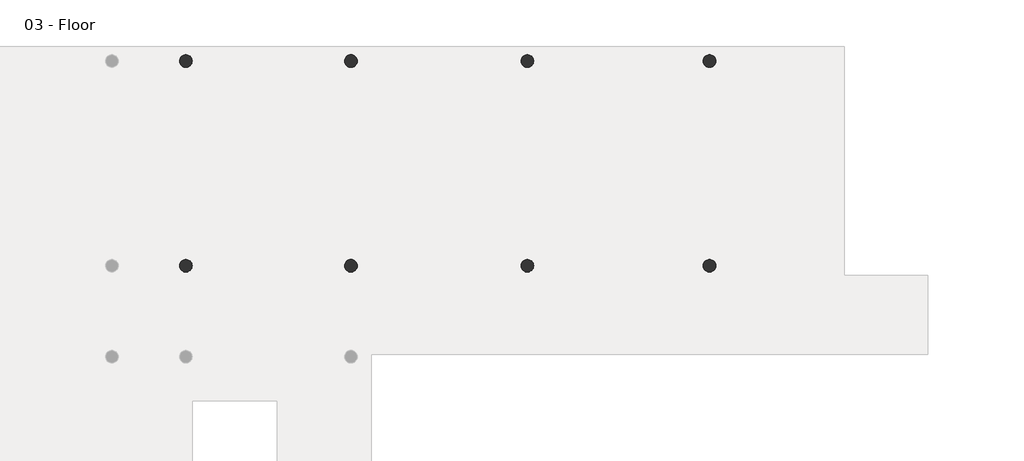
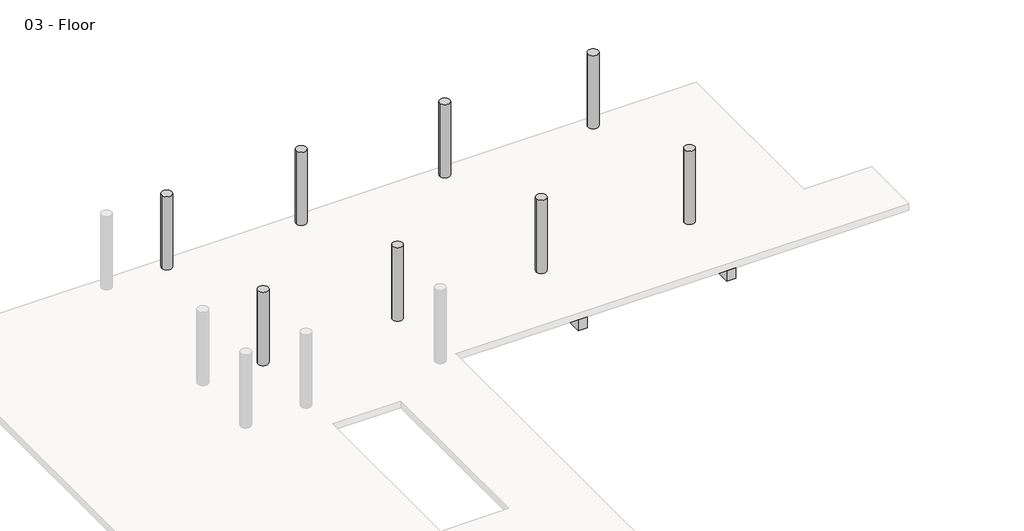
# One storey, part 8 of 8: 16 beams, 8 columns.
"""IFC4 building model written with IfcOpenShell, lengths in millimetres."""

from ifc_helpers import new_model, si_unit, point, frame, frame_2d, origin, place, context, project, spatial, polyline, circle_curve, trimmed, segment, composite_curve, outline, extrude, element, save
from ifc_brep_helpers import plane_surface, revolved_surface, advanced_brep

model = new_model("IFC4")

# Units and contexts
model_context = context("Model", 3, world=origin())
ifc_project = project(units=[si_unit("LENGTHUNIT", "METRE", prefix="MILLI")], contexts=[model_context])

# Site, building, storey
site = spatial("IfcSite", under=ifc_project)
building = spatial("IfcBuilding", under=site)
storey = spatial("IfcBuildingStorey", under=building, Name="03 - Floor", Elevation=7600.0)

# Beams
placement = place(None, origin())
element("IfcBeam", 1, ObjectType="M_Concrete-Rectangular Beam : 400 x 800mm", at=placement, inside=storey, context=model_context, shape_type="AdvancedBrep", body=[
    advanced_brep(
    [(554.8005584, 29890.6609793, 6800.0), (554.8005584, 29793.7386199, 6800.0), (554.8005584, 22878.5386199, 6800.0), (554.8005584, 22781.6162606, 6800.0), (554.8005584, 22781.6162606, 7300.0), (554.8005584, 22878.5386199, 7300.0), (554.8005584, 29793.7386199, 7300.0), (554.8005584, 29890.6609793, 7300.0), (954.8005584, 29890.6609793, 6800.0), (954.8005584, 29793.7386199, 6800.0), (954.8005584, 22878.5386199, 6800.0), (954.8005584, 22781.6162606, 6800.0), (954.8005584, 29890.6609793, 7300.0), (954.8005584, 29793.7386199, 7300.0), (954.8005584, 22878.5386199, 7300.0), (954.8005584, 22781.6162606, 7300.0)],
    [
        (0, 1),
        (1, 2),
        (2, 3),
        (3, 4),
        (4, 5),
        (5, 6),
        (6, 7),
        (7, 0),
        (0, 8, circle_curve(frame((754.8005584, 29993.7386199, 6800.0), z_axis=(0.0, 0.0, 1.0), x_axis=(-1.0, 0.0, 0.0)), 225.0)),
        (8, 9),
        (9, 10),
        (10, 11),
        (11, 3, circle_curve(frame((754.8005584, 22678.5386199, 6800.0), z_axis=(0.0, 0.0, 1.0), x_axis=(-1.0, 0.0, 0.0)), 225.0)),
        (8, 12),
        (12, 13),
        (13, 14),
        (14, 15),
        (15, 11),
        (7, 12, circle_curve(frame((754.8005584, 29993.7386199, 7300.0), z_axis=(0.0, 0.0, 1.0), x_axis=(-1.0, 0.0, 0.0)), 225.0)),
        (15, 4, circle_curve(frame((754.8005584, 22678.5386199, 7300.0), z_axis=(0.0, 0.0, 1.0), x_axis=(-1.0, 0.0, 0.0)), 225.0)),
    ],
    [
        plane_surface(frame((554.8005584, 22916.2386199, 7600.0), z_axis=(-1.0, 0.0, 0.0), x_axis=(0.0, 1.0, 0.0))),
        plane_surface(frame((554.8005584, 22916.2386199, 6800.0), z_axis=(0.0, 0.0, -1.0), x_axis=(0.0, 1.0, 0.0))),
        plane_surface(frame((954.8005584, 22916.2386199, 6800.0), z_axis=(1.0, 0.0, 0.0), x_axis=(0.0, 1.0, 0.0))),
        revolved_surface(polyline([(529.8005584, 29993.7386199, 7300.0), (529.8005584, 29993.7386199, 6800.0)]), (754.8005584, 29993.7386199, 3800.0), (0.0, 0.0, 1.0)),
        revolved_surface(polyline([(529.8005584, 22678.5386199, 7300.0), (529.8005584, 22678.5386199, 6800.0)]), (754.8005584, 22678.5386199, 3800.0), (0.0, 0.0, 1.0)),
        plane_surface(frame((24268.8999097, 30514.0407562, 7300.0), z_axis=(0.0, 0.0, 1.0), x_axis=(0.0, -1.0, 0.0))),
    ],
    [
        (0, [[1, 2, 3, 4, 5, 6, 7, 8]]),
        (1, [[9, 10, 11, 12, 13, -3, -2, -1]]),
        (2, [[-12, -11, -10, 14, 15, 16, 17, 18]]),
        (3, [[-9, -8, 19, -14]]),
        (4, [[-13, -18, 20, -4]]),
        (5, [[-7, -6, -5, -20, -17, -16, -15, -19]]),
    ],
),
])
element("IfcBeam", 2, ObjectType="M_Concrete-Rectangular Beam : 400 x 800mm", at=placement, inside=storey, context=model_context, shape_type="AdvancedBrep", body=[
    advanced_brep(
    [(554.8005584, 22575.4609793, 6800.0), (554.8005584, 22478.5386199, 6800.0), (554.8005584, 19627.3386199, 6800.0), (554.8005584, 19530.4162606, 6800.0), (554.8005584, 19530.4162606, 7300.0), (554.8005584, 19627.3386199, 7300.0), (554.8005584, 22478.5386199, 7300.0), (554.8005584, 22575.4609793, 7300.0), (857.878199, 22478.5386199, 6800.0), (954.8005584, 22478.5386199, 6800.0), (954.8005584, 19627.3386199, 6800.0), (954.8005584, 19530.4162606, 6800.0), (954.8005584, 22478.5386199, 7300.0), (954.8005584, 19627.3386199, 7300.0), (954.8005584, 19530.4162606, 7300.0), (857.878199, 22478.5386199, 7300.0)],
    [
        (0, 1),
        (1, 2),
        (2, 3),
        (3, 4),
        (4, 5),
        (5, 6),
        (6, 7),
        (7, 0),
        (0, 8, circle_curve(frame((754.8005584, 22678.5386199, 6800.0), z_axis=(0.0, 0.0, 1.0), x_axis=(-1.0, 0.0, 0.0)), 225.0)),
        (8, 9),
        (9, 10),
        (10, 11),
        (11, 3, circle_curve(frame((754.8005584, 19427.3386199, 6800.0), z_axis=(0.0, 0.0, 1.0), x_axis=(-1.0, 0.0, 0.0)), 225.0)),
        (9, 12),
        (12, 13),
        (13, 14),
        (14, 11),
        (7, 15, circle_curve(frame((754.8005584, 22678.5386199, 7300.0), z_axis=(0.0, 0.0, 1.0), x_axis=(-1.0, 0.0, 0.0)), 225.0)),
        (15, 8),
        (15, 12),
        (14, 4, circle_curve(frame((754.8005584, 19427.3386199, 7300.0), z_axis=(0.0, 0.0, 1.0), x_axis=(-1.0, 0.0, 0.0)), 225.0)),
    ],
    [
        plane_surface(frame((554.8005584, 19665.0386199, 7200.0), z_axis=(-1.0, 0.0, 0.0), x_axis=(0.0, 0.0, -1.0))),
        plane_surface(frame((754.8005584, 19665.0386199, 6800.0), z_axis=(0.0, 0.0, -1.0), x_axis=(1.0, 0.0, 0.0))),
        plane_surface(frame((954.8005584, 19665.0386199, 7200.0), z_axis=(1.0, 0.0, 0.0), x_axis=(0.0, 0.0, 1.0))),
        revolved_surface(polyline([(529.8005584, 22678.5386199, 7300.0), (529.8005584, 22678.5386199, 6800.0)]), (754.8005584, 22678.5386199, 3800.0), (0.0, 0.0, 1.0)),
        plane_surface(frame((992.5005584, 22478.5386199, 7200.0), z_axis=(0.0, 1.0, 0.0), x_axis=(0.0, 0.0, 1.0))),
        revolved_surface(polyline([(529.8005584, 19427.3386199, 7300.0), (529.8005584, 19427.3386199, 6800.0)]), (754.8005584, 19427.3386199, 3800.0), (0.0, 0.0, 1.0)),
        plane_surface(frame((24268.8999097, 30514.0407562, 7300.0), z_axis=(0.0, 0.0, 1.0), x_axis=(0.0, -1.0, 0.0))),
    ],
    [
        (0, [[1, 2, 3, 4, 5, 6, 7, 8]]),
        (1, [[9, 10, 11, 12, 13, -3, -2, -1]]),
        (2, [[-12, -11, 14, 15, 16, 17]]),
        (3, [[-9, -8, 18, 19]]),
        (4, [[-10, -19, 20, -14]]),
        (5, [[-13, -17, 21, -4]]),
        (6, [[-7, -6, -5, -21, -16, -15, -20, -18]]),
    ],
),
])
element("IfcBeam", 3, ObjectType="M_Concrete-Rectangular Beam : 400 x 800mm", at=placement, inside=storey, context=model_context, shape_type="AdvancedBrep", body=[
    advanced_brep(
    [(6447.6005584, 29890.6609793, 6800.0), (6447.6005584, 29793.7386199, 6800.0), (6447.6005584, 22878.5386199, 6800.0), (6447.6005584, 22781.6162606, 6800.0), (6447.6005584, 22781.6162606, 7300.0), (6447.6005584, 22878.5386199, 7300.0), (6447.6005584, 29793.7386199, 7300.0), (6447.6005584, 29890.6609793, 7300.0), (6847.6005584, 29890.6609793, 6800.0), (6847.6005584, 29793.7386199, 6800.0), (6847.6005584, 22878.5386199, 6800.0), (6847.6005584, 22781.6162606, 6800.0), (6847.6005584, 29890.6609793, 7300.0), (6847.6005584, 29793.7386199, 7300.0), (6847.6005584, 22878.5386199, 7300.0), (6847.6005584, 22781.6162606, 7300.0)],
    [
        (0, 1),
        (1, 2),
        (2, 3),
        (3, 4),
        (4, 5),
        (5, 6),
        (6, 7),
        (7, 0),
        (0, 8, circle_curve(frame((6647.6005584, 29993.7386199, 6800.0), z_axis=(0.0, 0.0, 1.0), x_axis=(-1.0, 0.0, 0.0)), 225.0)),
        (8, 9),
        (9, 10),
        (10, 11),
        (11, 3, circle_curve(frame((6647.6005584, 22678.5386199, 6800.0), z_axis=(0.0, 0.0, 1.0), x_axis=(-1.0, 0.0, 0.0)), 225.0)),
        (8, 12),
        (12, 13),
        (13, 14),
        (14, 15),
        (15, 11),
        (7, 12, circle_curve(frame((6647.6005584, 29993.7386199, 7300.0), z_axis=(0.0, 0.0, 1.0), x_axis=(-1.0, 0.0, 0.0)), 225.0)),
        (15, 4, circle_curve(frame((6647.6005584, 22678.5386199, 7300.0), z_axis=(0.0, 0.0, 1.0), x_axis=(-1.0, 0.0, 0.0)), 225.0)),
    ],
    [
        plane_surface(frame((6447.6005584, 22916.2386199, 7600.0), z_axis=(-1.0, 0.0, 0.0), x_axis=(0.0, 1.0, 0.0))),
        plane_surface(frame((6447.6005584, 22916.2386199, 6800.0), z_axis=(0.0, 0.0, -1.0), x_axis=(0.0, 1.0, 0.0))),
        plane_surface(frame((6847.6005584, 22916.2386199, 6800.0), z_axis=(1.0, 0.0, 0.0), x_axis=(0.0, 1.0, 0.0))),
        revolved_surface(polyline([(6422.6005584, 29993.7386199, 7300.0), (6422.6005584, 29993.7386199, 6800.0)]), (6647.6005584, 29993.7386199, 3800.0), (0.0, 0.0, 1.0)),
        revolved_surface(polyline([(6422.6005584, 22678.5386199, 7300.0), (6422.6005584, 22678.5386199, 6800.0)]), (6647.6005584, 22678.5386199, 3800.0), (0.0, 0.0, 1.0)),
        plane_surface(frame((24268.8999097, 30514.0407562, 7300.0), z_axis=(0.0, 0.0, 1.0), x_axis=(0.0, -1.0, 0.0))),
    ],
    [
        (0, [[1, 2, 3, 4, 5, 6, 7, 8]]),
        (1, [[9, 10, 11, 12, 13, -3, -2, -1]]),
        (2, [[-12, -11, -10, 14, 15, 16, 17, 18]]),
        (3, [[-9, -8, 19, -14]]),
        (4, [[-13, -18, 20, -4]]),
        (5, [[-7, -6, -5, -20, -17, -16, -15, -19]]),
    ],
),
])
element("IfcBeam", 4, ObjectType="M_Concrete-Rectangular Beam : 400 x 800mm", at=placement, inside=storey, context=model_context, shape_type="AdvancedBrep", body=[
    advanced_brep(
    [(6447.6005584, 22575.4609793, 6800.0), (6447.6005584, 22478.5386199, 6800.0), (6447.6005584, 19627.3386199, 6800.0), (6447.6005584, 19530.4162606, 6800.0), (6447.6005584, 19530.4162606, 7300.0), (6447.6005584, 19627.3386199, 7300.0), (6447.6005584, 22478.5386199, 7300.0), (6447.6005584, 22575.4609793, 7300.0), (6750.678199, 22478.5386199, 6800.0), (6847.6005584, 22478.5386199, 6800.0), (6847.6005584, 19530.4162606, 6800.0), (6847.6005584, 22478.5386199, 7300.0), (6847.6005584, 19530.4162606, 7300.0), (6750.678199, 22478.5386199, 7300.0)],
    [
        (0, 1),
        (1, 2),
        (2, 3),
        (3, 4),
        (4, 5),
        (5, 6),
        (6, 7),
        (7, 0),
        (0, 8, circle_curve(frame((6647.6005584, 22678.5386199, 6800.0), z_axis=(0.0, 0.0, 1.0), x_axis=(-1.0, 0.0, 0.0)), 225.0)),
        (8, 9),
        (9, 10),
        (10, 3, circle_curve(frame((6647.6005584, 19427.3386199, 6800.0), z_axis=(0.0, 0.0, 1.0), x_axis=(-1.0, 0.0, 0.0)), 225.0)),
        (9, 11),
        (11, 12),
        (12, 10),
        (7, 13, circle_curve(frame((6647.6005584, 22678.5386199, 7300.0), z_axis=(0.0, 0.0, 1.0), x_axis=(-1.0, 0.0, 0.0)), 225.0)),
        (13, 8),
        (13, 11),
        (12, 4, circle_curve(frame((6647.6005584, 19427.3386199, 7300.0), z_axis=(0.0, 0.0, 1.0), x_axis=(-1.0, 0.0, 0.0)), 225.0)),
    ],
    [
        plane_surface(frame((6447.6005584, 19665.0386199, 7200.0), z_axis=(-1.0, 0.0, 0.0), x_axis=(0.0, 0.0, -1.0))),
        plane_surface(frame((6647.6005584, 19665.0386199, 6800.0), z_axis=(0.0, 0.0, -1.0), x_axis=(1.0, 0.0, 0.0))),
        plane_surface(frame((6847.6005584, 19665.0386199, 7200.0), z_axis=(1.0, 0.0, 0.0), x_axis=(0.0, 0.0, 1.0))),
        revolved_surface(polyline([(6422.6005584, 22678.5386199, 7300.0), (6422.6005584, 22678.5386199, 6800.0)]), (6647.6005584, 22678.5386199, 3800.0), (0.0, 0.0, 1.0)),
        plane_surface(frame((6885.3005584, 22478.5386199, 7200.0), z_axis=(0.0, 1.0, 0.0), x_axis=(0.0, 0.0, 1.0))),
        revolved_surface(polyline([(6422.6005584, 19427.3386199, 7300.0), (6422.6005584, 19427.3386199, 6800.0)]), (6647.6005584, 19427.3386199, 3800.0), (0.0, 0.0, 1.0)),
        plane_surface(frame((24268.8999097, 30514.0407562, 7300.0), z_axis=(0.0, 0.0, 1.0), x_axis=(0.0, -1.0, 0.0))),
    ],
    [
        (0, [[1, 2, 3, 4, 5, 6, 7, 8]]),
        (1, [[9, 10, 11, 12, -3, -2, -1]]),
        (2, [[-11, 13, 14, 15]]),
        (3, [[-9, -8, 16, 17]]),
        (4, [[-10, -17, 18, -13]]),
        (5, [[-12, -15, 19, -4]]),
        (6, [[-7, -6, -5, -19, -14, -18, -16]]),
    ],
),
])
element("IfcBeam", 5, ObjectType="M_Concrete-Rectangular Beam : 400 x 800mm", at=placement, inside=storey, context=model_context, shape_type="AdvancedBrep", body=[
    advanced_brep(
    [(12746.8005584, 29890.6609793, 6800.0), (12746.8005584, 29793.7386199, 6800.0), (12746.8005584, 22878.5386199, 6800.0), (12746.8005584, 22781.6162606, 6800.0), (12746.8005584, 22781.6162606, 7300.0), (12746.8005584, 22878.5386199, 7300.0), (12746.8005584, 29793.7386199, 7300.0), (12746.8005584, 29890.6609793, 7300.0), (13146.8005584, 29890.6609793, 6800.0), (13146.8005584, 29793.7386199, 6800.0), (13146.8005584, 22878.5386199, 6800.0), (13146.8005584, 22781.6162606, 6800.0), (13146.8005584, 29890.6609793, 7300.0), (13146.8005584, 29793.7386199, 7300.0), (13146.8005584, 22878.5386199, 7300.0), (13146.8005584, 22781.6162606, 7300.0)],
    [
        (0, 1),
        (1, 2),
        (2, 3),
        (3, 4),
        (4, 5),
        (5, 6),
        (6, 7),
        (7, 0),
        (0, 8, circle_curve(frame((12946.8005584, 29993.7386199, 6800.0), z_axis=(0.0, 0.0, 1.0), x_axis=(-1.0, 0.0, 0.0)), 225.0)),
        (8, 9),
        (9, 10),
        (10, 11),
        (11, 3, circle_curve(frame((12946.8005584, 22678.5386199, 6800.0), z_axis=(0.0, 0.0, 1.0), x_axis=(-1.0, 0.0, 0.0)), 225.0)),
        (8, 12),
        (12, 13),
        (13, 14),
        (14, 15),
        (15, 11),
        (7, 12, circle_curve(frame((12946.8005584, 29993.7386199, 7300.0), z_axis=(0.0, 0.0, 1.0), x_axis=(-1.0, 0.0, 0.0)), 225.0)),
        (15, 4, circle_curve(frame((12946.8005584, 22678.5386199, 7300.0), z_axis=(0.0, 0.0, 1.0), x_axis=(-1.0, 0.0, 0.0)), 225.0)),
    ],
    [
        plane_surface(frame((12746.8005584, 22916.2386199, 7600.0), z_axis=(-1.0, 0.0, 0.0), x_axis=(0.0, 1.0, 0.0))),
        plane_surface(frame((12746.8005584, 22916.2386199, 6800.0), z_axis=(0.0, 0.0, -1.0), x_axis=(0.0, 1.0, 0.0))),
        plane_surface(frame((13146.8005584, 22916.2386199, 6800.0), z_axis=(1.0, 0.0, 0.0), x_axis=(0.0, 1.0, 0.0))),
        revolved_surface(polyline([(12721.8005584, 29993.7386199, 7300.0), (12721.8005584, 29993.7386199, 6800.0)]), (12946.8005584, 29993.7386199, 3800.0), (0.0, 0.0, 1.0)),
        revolved_surface(polyline([(12721.8005584, 22678.5386199, 7300.0), (12721.8005584, 22678.5386199, 6800.0)]), (12946.8005584, 22678.5386199, 3800.0), (0.0, 0.0, 1.0)),
        plane_surface(frame((24268.8999097, 30514.0407562, 7300.0), z_axis=(0.0, 0.0, 1.0), x_axis=(0.0, -1.0, 0.0))),
    ],
    [
        (0, [[1, 2, 3, 4, 5, 6, 7, 8]]),
        (1, [[9, 10, 11, 12, 13, -3, -2, -1]]),
        (2, [[-12, -11, -10, 14, 15, 16, 17, 18]]),
        (3, [[-9, -8, 19, -14]]),
        (4, [[-13, -18, 20, -4]]),
        (5, [[-7, -6, -5, -20, -17, -16, -15, -19]]),
    ],
),
])
element("IfcBeam", 6, ObjectType="M_Concrete-Rectangular Beam : 400 x 800mm", at=placement, inside=storey, context=model_context, shape_type="AdvancedBrep", body=[
    advanced_brep(
    [(19249.2005584, 29890.6609793, 6800.0), (19249.2005584, 29793.7386199, 6800.0), (19249.2005584, 22878.5386199, 6800.0), (19249.2005584, 22781.6162606, 6800.0), (19249.2005584, 22781.6162606, 7300.0), (19249.2005584, 22878.5386199, 7300.0), (19249.2005584, 29793.7386199, 7300.0), (19249.2005584, 29890.6609793, 7300.0), (19649.2005584, 29890.6609793, 6800.0), (19649.2005584, 29793.7386199, 6800.0), (19649.2005584, 22878.5386199, 6800.0), (19649.2005584, 22781.6162606, 6800.0), (19649.2005584, 29890.6609793, 7300.0), (19649.2005584, 29793.7386199, 7300.0), (19649.2005584, 22878.5386199, 7300.0), (19649.2005584, 22781.6162606, 7300.0)],
    [
        (0, 1),
        (1, 2),
        (2, 3),
        (3, 4),
        (4, 5),
        (5, 6),
        (6, 7),
        (7, 0),
        (0, 8, circle_curve(frame((19449.2005584, 29993.7386199, 6800.0), z_axis=(0.0, 0.0, 1.0), x_axis=(-1.0, 0.0, 0.0)), 225.0)),
        (8, 9),
        (9, 10),
        (10, 11),
        (11, 3, circle_curve(frame((19449.2005584, 22678.5386199, 6800.0), z_axis=(0.0, 0.0, 1.0), x_axis=(-1.0, 0.0, 0.0)), 225.0)),
        (8, 12),
        (12, 13),
        (13, 14),
        (14, 15),
        (15, 11),
        (7, 12, circle_curve(frame((19449.2005584, 29993.7386199, 7300.0), z_axis=(0.0, 0.0, 1.0), x_axis=(-1.0, 0.0, 0.0)), 225.0)),
        (15, 4, circle_curve(frame((19449.2005584, 22678.5386199, 7300.0), z_axis=(0.0, 0.0, 1.0), x_axis=(-1.0, 0.0, 0.0)), 225.0)),
    ],
    [
        plane_surface(frame((19249.2005584, 22916.2386199, 7600.0), z_axis=(-1.0, 0.0, 0.0), x_axis=(0.0, 1.0, 0.0))),
        plane_surface(frame((19249.2005584, 22916.2386199, 6800.0), z_axis=(0.0, 0.0, -1.0), x_axis=(0.0, 1.0, 0.0))),
        plane_surface(frame((19649.2005584, 22916.2386199, 6800.0), z_axis=(1.0, 0.0, 0.0), x_axis=(0.0, 1.0, 0.0))),
        revolved_surface(polyline([(19224.2005584, 29993.7386199, 7300.0), (19224.2005584, 29993.7386199, 6800.0)]), (19449.2005584, 29993.7386199, 3800.0), (0.0, 0.0, 1.0)),
        revolved_surface(polyline([(19224.2005584, 22678.5386199, 7300.0), (19224.2005584, 22678.5386199, 6800.0)]), (19449.2005584, 22678.5386199, 3800.0), (0.0, 0.0, 1.0)),
        plane_surface(frame((24268.8999097, 30514.0407562, 7300.0), z_axis=(0.0, 0.0, 1.0), x_axis=(0.0, -1.0, 0.0))),
    ],
    [
        (0, [[1, 2, 3, 4, 5, 6, 7, 8]]),
        (1, [[9, 10, 11, 12, 13, -3, -2, -1]]),
        (2, [[-12, -11, -10, 14, 15, 16, 17, 18]]),
        (3, [[-9, -8, 19, -14]]),
        (4, [[-13, -18, 20, -4]]),
        (5, [[-7, -6, -5, -20, -17, -16, -15, -19]]),
    ],
),
])
element("IfcBeam", 7, ObjectType="M_Concrete-Rectangular Beam : 400 x 800mm", at=placement, inside=storey, context=model_context, shape_type="SweptSolid", body=[
    extrude(outline(composite_curve([segment(polyline([(19649.2005584, 29793.7386199), (19649.2005584, 29890.6609793)]), True, "CONTINUOUS"), segment(trimmed(circle_curve(frame_2d((19449.2005584, 29993.7386199)), 225.0), [point((19649.2005584, 29890.6609793))], [point((19674.2005584, 29993.7386199))], True, "CARTESIAN"), True, "CONTINUOUS"), segment(trimmed(circle_curve(frame_2d((19449.2005584, 29993.7386199)), 225.0), [point((19674.2005584, 29993.7386199))], [point((19552.278199, 30193.7386199))], True, "CARTESIAN"), True, "CONTINUOUS"), segment(polyline([(19552.278199, 30193.7386199), (24268.8999097, 30193.7386199), (24268.8999097, 29793.7386199), (19649.2005584, 29793.7386199)]), True, "CONTINUOUS")], self_intersect=False)), frame((0.0, 0.0, 6800.0), z_axis=(0.0, 0.0, 1.0), x_axis=(1.0, 0.0, 0.0)), (0.0, 0.0, 1.0), 500.0),
])
element("IfcBeam", 8, ObjectType="M_Concrete-Rectangular Beam : 400 x 800mm", at=placement, inside=storey, context=model_context, shape_type="SweptSolid", body=[
    extrude(outline(composite_curve([segment(polyline([(13146.8005584, 29793.7386199), (13146.8005584, 29890.6609793)]), True, "CONTINUOUS"), segment(trimmed(circle_curve(frame_2d((12946.8005584, 29993.7386199)), 225.0), [point((13146.8005584, 29890.6609793))], [point((13171.8005584, 29993.7386199))], True, "CARTESIAN"), True, "CONTINUOUS"), segment(trimmed(circle_curve(frame_2d((12946.8005584, 29993.7386199)), 225.0), [point((13171.8005584, 29993.7386199))], [point((13049.878199, 30193.7386199))], True, "CARTESIAN"), True, "CONTINUOUS"), segment(polyline([(13049.878199, 30193.7386199), (19346.1229178, 30193.7386199)]), True, "CONTINUOUS"), segment(trimmed(circle_curve(frame_2d((19449.2005584, 29993.7386199)), 225.0), [point((19346.1229178, 30193.7386199))], [point((19224.2005584, 29993.7386199))], True, "CARTESIAN"), True, "CONTINUOUS"), segment(trimmed(circle_curve(frame_2d((19449.2005584, 29993.7386199)), 225.0), [point((19224.2005584, 29993.7386199))], [point((19249.2005584, 29890.6609793))], True, "CARTESIAN"), True, "CONTINUOUS"), segment(polyline([(19249.2005584, 29890.6609793), (19249.2005584, 29793.7386199), (13146.8005584, 29793.7386199)]), True, "CONTINUOUS")], self_intersect=False)), frame((0.0, 0.0, 6800.0), z_axis=(0.0, 0.0, 1.0), x_axis=(1.0, 0.0, 0.0)), (0.0, 0.0, 1.0), 500.0),
])
element("IfcBeam", 9, ObjectType="M_Concrete-Rectangular Beam : 400 x 800mm", at=placement, inside=storey, context=model_context, shape_type="SweptSolid", body=[
    extrude(outline(composite_curve([segment(polyline([(6847.6005584, 29793.7386199), (6847.6005584, 29890.6609793)]), True, "CONTINUOUS"), segment(trimmed(circle_curve(frame_2d((6647.6005584, 29993.7386199)), 225.0), [point((6847.6005584, 29890.6609793))], [point((6872.6005584, 29993.7386199))], True, "CARTESIAN"), True, "CONTINUOUS"), segment(trimmed(circle_curve(frame_2d((6647.6005584, 29993.7386199)), 225.0), [point((6872.6005584, 29993.7386199))], [point((6750.678199, 30193.7386199))], True, "CARTESIAN"), True, "CONTINUOUS"), segment(polyline([(6750.678199, 30193.7386199), (12843.7229178, 30193.7386199)]), True, "CONTINUOUS"), segment(trimmed(circle_curve(frame_2d((12946.8005584, 29993.7386199)), 225.0), [point((12843.7229178, 30193.7386199))], [point((12721.8005584, 29993.7386199))], True, "CARTESIAN"), True, "CONTINUOUS"), segment(trimmed(circle_curve(frame_2d((12946.8005584, 29993.7386199)), 225.0), [point((12721.8005584, 29993.7386199))], [point((12746.8005584, 29890.6609793))], True, "CARTESIAN"), True, "CONTINUOUS"), segment(polyline([(12746.8005584, 29890.6609793), (12746.8005584, 29793.7386199), (6847.6005584, 29793.7386199)]), True, "CONTINUOUS")], self_intersect=False)), frame((0.0, 0.0, 6800.0), z_axis=(0.0, 0.0, 1.0), x_axis=(1.0, 0.0, 0.0)), (0.0, 0.0, 1.0), 500.0),
])
element("IfcBeam", 10, ObjectType="M_Concrete-Rectangular Beam : 400 x 800mm", at=placement, inside=storey, context=model_context, shape_type="SweptSolid", body=[
    extrude(outline(composite_curve([segment(polyline([(954.8005584, 29793.7386199), (954.8005584, 29890.6609793)]), True, "CONTINUOUS"), segment(trimmed(circle_curve(frame_2d((754.8005584, 29993.7386199)), 225.0), [point((954.8005584, 29890.6609793))], [point((979.8005584, 29993.7386199))], True, "CARTESIAN"), True, "CONTINUOUS"), segment(trimmed(circle_curve(frame_2d((754.8005584, 29993.7386199)), 225.0), [point((979.8005584, 29993.7386199))], [point((857.878199, 30193.7386199))], True, "CARTESIAN"), True, "CONTINUOUS"), segment(polyline([(857.878199, 30193.7386199), (6544.5229178, 30193.7386199)]), True, "CONTINUOUS"), segment(trimmed(circle_curve(frame_2d((6647.6005584, 29993.7386199)), 225.0), [point((6544.5229178, 30193.7386199))], [point((6422.6005584, 29993.7386199))], True, "CARTESIAN"), True, "CONTINUOUS"), segment(trimmed(circle_curve(frame_2d((6647.6005584, 29993.7386199)), 225.0), [point((6422.6005584, 29993.7386199))], [point((6447.6005584, 29890.6609793))], True, "CARTESIAN"), True, "CONTINUOUS"), segment(polyline([(6447.6005584, 29890.6609793), (6447.6005584, 29793.7386199), (954.8005584, 29793.7386199)]), True, "CONTINUOUS")], self_intersect=False)), frame((0.0, 0.0, 6800.0), z_axis=(0.0, 0.0, 1.0), x_axis=(1.0, 0.0, 0.0)), (0.0, 0.0, 1.0), 500.0),
])
element("IfcBeam", 11, ObjectType="M_Concrete-Rectangular Beam : 400 x 800mm", at=placement, inside=storey, context=model_context, shape_type="AdvancedBrep", body=[
    advanced_brep(
    [(19649.2005584, 22878.5386199, 6800.0), (19649.2005584, 22878.5386199, 7300.0), (24268.8999097, 22878.5386199, 7300.0), (24268.8999097, 22878.5386199, 6800.0), (19649.2005584, 22781.6162606, 6800.0), (24268.8999097, 22478.5386199, 6800.0), (19649.2005584, 22478.5386199, 6800.0), (19552.278199, 22478.5386199, 6800.0), (19674.2005584, 22678.5386199, 6800.0), (19552.278199, 22478.5386199, 7300.0), (24268.8999097, 22478.5386199, 7300.0), (19649.2005584, 22478.5386199, 7300.0), (19649.2005584, 22781.6162606, 7300.0), (19674.2005584, 22678.5386199, 7300.0)],
    [
        (0, 1),
        (1, 2),
        (2, 3),
        (3, 0),
        (4, 0),
        (3, 5),
        (5, 6),
        (6, 7),
        (7, 8, circle_curve(frame((19449.2005584, 22678.5386199, 6800.0), z_axis=(0.0, 0.0, 1.0), x_axis=(-1.0, 0.0, 0.0)), 225.0)),
        (8, 4, circle_curve(frame((19449.2005584, 22678.5386199, 6800.0), z_axis=(0.0, 0.0, 1.0), x_axis=(-1.0, 0.0, 0.0)), 225.0)),
        (9, 7),
        (5, 10),
        (10, 11),
        (11, 9),
        (4, 12),
        (12, 1),
        (9, 13, circle_curve(frame((19449.2005584, 22678.5386199, 7300.0), z_axis=(0.0, 0.0, 1.0), x_axis=(-1.0, 0.0, 0.0)), 225.0)),
        (13, 8),
        (13, 12, circle_curve(frame((19449.2005584, 22678.5386199, 7300.0), z_axis=(0.0, 0.0, 1.0), x_axis=(-1.0, 0.0, 0.0)), 225.0)),
        (10, 2),
    ],
    [
        plane_surface(frame((19686.9005584, 22878.5386199, 7600.0), z_axis=(0.0, 1.0, 0.0), x_axis=(1.0, 0.0, 0.0))),
        plane_surface(frame((19686.9005584, 22878.5386199, 6800.0), z_axis=(0.0, 0.0, -1.0), x_axis=(1.0, 0.0, 0.0))),
        plane_surface(frame((19686.9005584, 22478.5386199, 6800.0), z_axis=(0.0, -1.0, 0.0), x_axis=(1.0, 0.0, 0.0))),
        plane_surface(frame((19649.2005584, 22916.2386199, 6800.0), z_axis=(-1.0, 0.0, 0.0), x_axis=(0.0, 1.0, 0.0))),
        revolved_surface(polyline([(19224.2005584, 22678.5386199, 7300.0), (19224.2005584, 22678.5386199, 6800.0)]), (19449.2005584, 22678.5386199, 3800.0), (0.0, 0.0, 1.0)),
        plane_surface(frame((24268.8999097, 30514.0407562, 7300.0), z_axis=(0.0, 0.0, 1.0), x_axis=(0.0, -1.0, 0.0))),
        plane_surface(frame((24268.8999097, 30792.0407562, 0.0), z_axis=(1.0, 0.0, 0.0), x_axis=(0.0, -1.0, 0.0))),
    ],
    [
        (0, [[1, 2, 3, 4]]),
        (1, [[5, -4, 6, 7, 8, 9, 10]]),
        (2, [[11, -8, -7, 12, 13, 14]]),
        (3, [[-5, 15, 16, -1]]),
        (4, [[-9, -11, 17, 18]]),
        (4, [[-10, -18, 19, -15]]),
        (5, [[-2, -16, -19, -17, -14, -13, 20]]),
        (6, [[-3, -20, -12, -6]]),
    ],
),
])
element("IfcBeam", 12, ObjectType="M_Concrete-Rectangular Beam : 400 x 800mm", at=placement, inside=storey, context=model_context, shape_type="AdvancedBrep", body=[
    advanced_brep(
    [(19249.2005584, 22878.5386199, 6800.0), (13146.8005584, 22878.5386199, 6800.0), (13146.8005584, 22878.5386199, 7300.0), (19249.2005584, 22878.5386199, 7300.0), (13146.8005584, 22781.6162606, 6800.0), (19249.2005584, 22781.6162606, 6800.0), (19224.2005584, 22678.5386199, 6800.0), (19346.1229178, 22478.5386199, 6800.0), (19249.2005584, 22478.5386199, 6800.0), (13146.8005584, 22478.5386199, 6800.0), (13049.878199, 22478.5386199, 6800.0), (13171.8005584, 22678.5386199, 6800.0), (19346.1229178, 22478.5386199, 7300.0), (19249.2005584, 22478.5386199, 7300.0), (13146.8005584, 22478.5386199, 7300.0), (13049.878199, 22478.5386199, 7300.0), (13146.8005584, 22781.6162606, 7300.0), (13171.8005584, 22678.5386199, 7300.0), (19249.2005584, 22781.6162606, 7300.0), (19224.2005584, 22678.5386199, 7300.0)],
    [
        (0, 1),
        (1, 2),
        (2, 3),
        (3, 0),
        (4, 1),
        (0, 5),
        (5, 6, circle_curve(frame((19449.2005584, 22678.5386199, 6800.0), z_axis=(0.0, 0.0, 1.0), x_axis=(-1.0, 0.0, 0.0)), 225.0)),
        (6, 7, circle_curve(frame((19449.2005584, 22678.5386199, 6800.0), z_axis=(0.0, 0.0, 1.0), x_axis=(-1.0, 0.0, 0.0)), 225.0)),
        (7, 8),
        (8, 9),
        (9, 10),
        (10, 11, circle_curve(frame((12946.8005584, 22678.5386199, 6800.0), z_axis=(0.0, 0.0, 1.0), x_axis=(-1.0, 0.0, 0.0)), 225.0)),
        (11, 4, circle_curve(frame((12946.8005584, 22678.5386199, 6800.0), z_axis=(0.0, 0.0, 1.0), x_axis=(-1.0, 0.0, 0.0)), 225.0)),
        (7, 12),
        (12, 13),
        (13, 14),
        (14, 15),
        (15, 10),
        (4, 16),
        (16, 2),
        (15, 17, circle_curve(frame((12946.8005584, 22678.5386199, 7300.0), z_axis=(0.0, 0.0, 1.0), x_axis=(-1.0, 0.0, 0.0)), 225.0)),
        (17, 11),
        (17, 16, circle_curve(frame((12946.8005584, 22678.5386199, 7300.0), z_axis=(0.0, 0.0, 1.0), x_axis=(-1.0, 0.0, 0.0)), 225.0)),
        (3, 18),
        (18, 5),
        (6, 19),
        (19, 12, circle_curve(frame((19449.2005584, 22678.5386199, 7300.0), z_axis=(0.0, 0.0, 1.0), x_axis=(-1.0, 0.0, 0.0)), 225.0)),
        (18, 19, circle_curve(frame((19449.2005584, 22678.5386199, 7300.0), z_axis=(0.0, 0.0, 1.0), x_axis=(-1.0, 0.0, 0.0)), 225.0)),
    ],
    [
        plane_surface(frame((13184.5005584, 22878.5386199, 7200.0), z_axis=(0.0, 1.0, 0.0), x_axis=(0.0, 0.0, -1.0))),
        plane_surface(frame((13184.5005584, 22678.5386199, 6800.0), z_axis=(0.0, 0.0, -1.0), x_axis=(0.0, -1.0, 0.0))),
        plane_surface(frame((13184.5005584, 22478.5386199, 7200.0), z_axis=(0.0, -1.0, 0.0), x_axis=(0.0, 0.0, 1.0))),
        plane_surface(frame((13146.8005584, 22916.2386199, 6800.0), z_axis=(-1.0, 0.0, 0.0), x_axis=(0.0, 1.0, 0.0))),
        revolved_surface(polyline([(12721.8005584, 22678.5386199, 7300.0), (12721.8005584, 22678.5386199, 6800.0)]), (12946.8005584, 22678.5386199, 3800.0), (0.0, 0.0, 1.0)),
        plane_surface(frame((19249.2005584, 22916.2386199, 7600.0), z_axis=(1.0, 0.0, 0.0), x_axis=(0.0, 1.0, 0.0))),
        revolved_surface(polyline([(19224.2005584, 22678.5386199, 7300.0), (19224.2005584, 22678.5386199, 6800.0)]), (19449.2005584, 22678.5386199, 3800.0), (0.0, 0.0, 1.0)),
        plane_surface(frame((24268.8999097, 30514.0407562, 7300.0), z_axis=(0.0, 0.0, 1.0), x_axis=(0.0, -1.0, 0.0))),
    ],
    [
        (0, [[1, 2, 3, 4]]),
        (1, [[5, -1, 6, 7, 8, 9, 10, 11, 12, 13]]),
        (2, [[-11, -10, -9, 14, 15, 16, 17, 18]]),
        (3, [[-5, 19, 20, -2]]),
        (4, [[-12, -18, 21, 22]]),
        (4, [[-13, -22, 23, -19]]),
        (5, [[-6, -4, 24, 25]]),
        (6, [[-8, 26, 27, -14]]),
        (6, [[-7, -25, 28, -26]]),
        (7, [[-3, -20, -23, -21, -17, -16, -15, -27, -28, -24]]),
    ],
),
])
element("IfcBeam", 13, ObjectType="M_Concrete-Rectangular Beam : 400 x 800mm", at=placement, inside=storey, context=model_context, shape_type="AdvancedBrep", body=[
    advanced_brep(
    [(12746.8005584, 22878.5386199, 6800.0), (6847.6005584, 22878.5386199, 6800.0), (6847.6005584, 22878.5386199, 7300.0), (12746.8005584, 22878.5386199, 7300.0), (6750.678199, 22478.5386199, 6800.0), (6872.6005584, 22678.5386199, 6800.0), (6847.6005584, 22781.6162606, 6800.0), (12746.8005584, 22781.6162606, 6800.0), (12721.8005584, 22678.5386199, 6800.0), (12843.7229178, 22478.5386199, 6800.0), (12746.8005584, 22478.5386199, 6800.0), (6847.6005584, 22478.5386199, 6800.0), (12843.7229178, 22478.5386199, 7300.0), (12746.8005584, 22478.5386199, 7300.0), (6847.6005584, 22478.5386199, 7300.0), (6750.678199, 22478.5386199, 7300.0), (6872.6005584, 22678.5386199, 7300.0), (6847.6005584, 22781.6162606, 7300.0), (12721.8005584, 22678.5386199, 7300.0), (12746.8005584, 22781.6162606, 7300.0)],
    [
        (0, 1),
        (1, 2),
        (2, 3),
        (3, 0),
        (4, 5, circle_curve(frame((6647.6005584, 22678.5386199, 6800.0), z_axis=(0.0, 0.0, 1.0), x_axis=(-1.0, 0.0, 0.0)), 225.0)),
        (5, 6, circle_curve(frame((6647.6005584, 22678.5386199, 6800.0), z_axis=(0.0, 0.0, 1.0), x_axis=(-1.0, 0.0, 0.0)), 225.0)),
        (6, 1),
        (0, 7),
        (7, 8, circle_curve(frame((12946.8005584, 22678.5386199, 6800.0), z_axis=(0.0, 0.0, 1.0), x_axis=(-1.0, 0.0, 0.0)), 225.0)),
        (8, 9, circle_curve(frame((12946.8005584, 22678.5386199, 6800.0), z_axis=(0.0, 0.0, 1.0), x_axis=(-1.0, 0.0, 0.0)), 225.0)),
        (9, 10),
        (10, 11),
        (11, 4),
        (9, 12),
        (12, 13),
        (13, 14),
        (14, 15),
        (15, 4),
        (15, 16, circle_curve(frame((6647.6005584, 22678.5386199, 7300.0), z_axis=(0.0, 0.0, 1.0), x_axis=(-1.0, 0.0, 0.0)), 225.0)),
        (16, 5),
        (16, 17, circle_curve(frame((6647.6005584, 22678.5386199, 7300.0), z_axis=(0.0, 0.0, 1.0), x_axis=(-1.0, 0.0, 0.0)), 225.0)),
        (17, 6),
        (17, 2),
        (8, 18),
        (18, 12, circle_curve(frame((12946.8005584, 22678.5386199, 7300.0), z_axis=(0.0, 0.0, 1.0), x_axis=(-1.0, 0.0, 0.0)), 225.0)),
        (7, 19),
        (19, 18, circle_curve(frame((12946.8005584, 22678.5386199, 7300.0), z_axis=(0.0, 0.0, 1.0), x_axis=(-1.0, 0.0, 0.0)), 225.0)),
        (3, 19),
    ],
    [
        plane_surface(frame((6885.3005584, 22878.5386199, 7200.0), z_axis=(0.0, 1.0, 0.0), x_axis=(0.0, 0.0, -1.0))),
        plane_surface(frame((6885.3005584, 22678.5386199, 6800.0), z_axis=(0.0, 0.0, -1.0), x_axis=(0.0, -1.0, 0.0))),
        plane_surface(frame((6885.3005584, 22478.5386199, 7200.0), z_axis=(0.0, -1.0, 0.0), x_axis=(0.0, 0.0, 1.0))),
        revolved_surface(polyline([(6422.6005584, 22678.5386199, 7300.0), (6422.6005584, 22678.5386199, 6800.0)]), (6647.6005584, 22678.5386199, 3800.0), (0.0, 0.0, 1.0)),
        plane_surface(frame((6847.6005584, 22916.2386199, 6800.0), z_axis=(-1.0, 0.0, 0.0), x_axis=(0.0, 1.0, 0.0))),
        revolved_surface(polyline([(12721.8005584, 22678.5386199, 7300.0), (12721.8005584, 22678.5386199, 6800.0)]), (12946.8005584, 22678.5386199, 3800.0), (0.0, 0.0, 1.0)),
        plane_surface(frame((12746.8005584, 22916.2386199, 7600.0), z_axis=(1.0, 0.0, 0.0), x_axis=(0.0, 1.0, 0.0))),
        plane_surface(frame((24268.8999097, 30514.0407562, 7300.0), z_axis=(0.0, 0.0, 1.0), x_axis=(0.0, -1.0, 0.0))),
    ],
    [
        (0, [[1, 2, 3, 4]]),
        (1, [[5, 6, 7, -1, 8, 9, 10, 11, 12, 13]]),
        (2, [[-13, -12, -11, 14, 15, 16, 17, 18]]),
        (3, [[-5, -18, 19, 20]]),
        (3, [[-6, -20, 21, 22]]),
        (4, [[-7, -22, 23, -2]]),
        (5, [[-10, 24, 25, -14]]),
        (5, [[-9, 26, 27, -24]]),
        (6, [[-8, -4, 28, -26]]),
        (7, [[-3, -23, -21, -19, -17, -16, -15, -25, -27, -28]]),
    ],
),
])
element("IfcBeam", 14, ObjectType="M_Concrete-Rectangular Beam : 400 x 800mm", at=placement, inside=storey, context=model_context, shape_type="AdvancedBrep", body=[
    advanced_brep(
    [(6447.6005584, 22878.5386199, 6800.0), (954.8005584, 22878.5386199, 6800.0), (954.8005584, 22878.5386199, 7300.0), (6447.6005584, 22878.5386199, 7300.0), (857.878199, 22478.5386199, 6800.0), (979.8005584, 22678.5386199, 6800.0), (954.8005584, 22781.6162606, 6800.0), (6447.6005584, 22781.6162606, 6800.0), (6422.6005584, 22678.5386199, 6800.0), (6447.6005584, 22575.4609793, 6800.0), (6447.6005584, 22478.5386199, 6800.0), (954.8005584, 22478.5386199, 6800.0), (6447.6005584, 22478.5386199, 7300.0), (954.8005584, 22478.5386199, 7300.0), (857.878199, 22478.5386199, 7300.0), (979.8005584, 22678.5386199, 7300.0), (954.8005584, 22781.6162606, 7300.0), (6422.6005584, 22678.5386199, 7300.0), (6447.6005584, 22575.4609793, 7300.0), (6447.6005584, 22781.6162606, 7300.0)],
    [
        (0, 1),
        (1, 2),
        (2, 3),
        (3, 0),
        (4, 5, circle_curve(frame((754.8005584, 22678.5386199, 6800.0), z_axis=(0.0, 0.0, 1.0), x_axis=(-1.0, 0.0, 0.0)), 225.0)),
        (5, 6, circle_curve(frame((754.8005584, 22678.5386199, 6800.0), z_axis=(0.0, 0.0, 1.0), x_axis=(-1.0, 0.0, 0.0)), 225.0)),
        (6, 1),
        (0, 7),
        (7, 8, circle_curve(frame((6647.6005584, 22678.5386199, 6800.0), z_axis=(0.0, 0.0, 1.0), x_axis=(-1.0, 0.0, 0.0)), 225.0)),
        (8, 9, circle_curve(frame((6647.6005584, 22678.5386199, 6800.0), z_axis=(0.0, 0.0, 1.0), x_axis=(-1.0, 0.0, 0.0)), 225.0)),
        (9, 10),
        (10, 11),
        (11, 4),
        (10, 12),
        (12, 13),
        (13, 14),
        (14, 4),
        (14, 15, circle_curve(frame((754.8005584, 22678.5386199, 7300.0), z_axis=(0.0, 0.0, 1.0), x_axis=(-1.0, 0.0, 0.0)), 225.0)),
        (15, 5),
        (15, 16, circle_curve(frame((754.8005584, 22678.5386199, 7300.0), z_axis=(0.0, 0.0, 1.0), x_axis=(-1.0, 0.0, 0.0)), 225.0)),
        (16, 6),
        (16, 2),
        (8, 17),
        (17, 18, circle_curve(frame((6647.6005584, 22678.5386199, 7300.0), z_axis=(0.0, 0.0, 1.0), x_axis=(-1.0, 0.0, 0.0)), 225.0)),
        (18, 9),
        (7, 19),
        (19, 17, circle_curve(frame((6647.6005584, 22678.5386199, 7300.0), z_axis=(0.0, 0.0, 1.0), x_axis=(-1.0, 0.0, 0.0)), 225.0)),
        (18, 12),
        (3, 19),
    ],
    [
        plane_surface(frame((992.5005584, 22878.5386199, 7200.0), z_axis=(0.0, 1.0, 0.0), x_axis=(0.0, 0.0, -1.0))),
        plane_surface(frame((992.5005584, 22678.5386199, 6800.0), z_axis=(0.0, 0.0, -1.0), x_axis=(0.0, -1.0, 0.0))),
        plane_surface(frame((992.5005584, 22478.5386199, 7200.0), z_axis=(0.0, -1.0, 0.0), x_axis=(0.0, 0.0, 1.0))),
        revolved_surface(polyline([(529.8005584, 22678.5386199, 7300.0), (529.8005584, 22678.5386199, 6800.0)]), (754.8005584, 22678.5386199, 3800.0), (0.0, 0.0, 1.0)),
        plane_surface(frame((954.8005584, 22916.2386199, 6800.0), z_axis=(-1.0, 0.0, 0.0), x_axis=(0.0, 1.0, 0.0))),
        revolved_surface(polyline([(6422.6005584, 22678.5386199, 7300.0), (6422.6005584, 22678.5386199, 6800.0)]), (6647.6005584, 22678.5386199, 3800.0), (0.0, 0.0, 1.0)),
        plane_surface(frame((6447.6005584, 19665.0386199, 7200.0), z_axis=(1.0, 0.0, 0.0), x_axis=(0.0, 0.0, -1.0))),
        plane_surface(frame((6447.6005584, 22916.2386199, 7600.0), z_axis=(1.0, 0.0, 0.0), x_axis=(0.0, 1.0, 0.0))),
        plane_surface(frame((24268.8999097, 30514.0407562, 7300.0), z_axis=(0.0, 0.0, 1.0), x_axis=(0.0, -1.0, 0.0))),
    ],
    [
        (0, [[1, 2, 3, 4]]),
        (1, [[5, 6, 7, -1, 8, 9, 10, 11, 12, 13]]),
        (2, [[-13, -12, 14, 15, 16, 17]]),
        (3, [[-5, -17, 18, 19]]),
        (3, [[-6, -19, 20, 21]]),
        (4, [[-7, -21, 22, -2]]),
        (5, [[-10, 23, 24, 25]]),
        (5, [[-9, 26, 27, -23]]),
        (6, [[-11, -25, 28, -14]]),
        (7, [[-8, -4, 29, -26]]),
        (8, [[-3, -22, -20, -18, -16, -15, -28, -24, -27, -29]]),
    ],
),
])
element("IfcBeam", 15, ObjectType="M_Concrete-Rectangular Beam : 400 x 800mm", at=placement, inside=storey, context=model_context, shape_type="SweptSolid", body=[
    extrude(outline(composite_curve([segment(polyline([(13146.8005584, 19514.0407562), (12746.8005584, 19514.0407562), (12746.8005584, 22478.5386199), (12843.7229178, 22478.5386199)]), True, "CONTINUOUS"), segment(trimmed(circle_curve(frame_2d((12946.8005584, 22678.5386199)), 225.0), [point((12843.7229178, 22478.5386199))], [point((13049.878199, 22478.5386199))], True, "CARTESIAN"), True, "CONTINUOUS"), segment(polyline([(13049.878199, 22478.5386199), (13146.8005584, 22478.5386199), (13146.8005584, 19514.0407562)]), True, "CONTINUOUS")], self_intersect=False)), frame((0.0, 0.0, 6800.0), z_axis=(0.0, 0.0, 1.0), x_axis=(1.0, 0.0, 0.0)), (0.0, 0.0, 1.0), 500.0),
])
element("IfcBeam", 16, ObjectType="M_Concrete-Rectangular Beam : 400 x 800mm", at=placement, inside=storey, context=model_context, shape_type="SweptSolid", body=[
    extrude(outline(composite_curve([segment(polyline([(19649.2005584, 19514.0407562), (19249.2005584, 19514.0407562), (19249.2005584, 22478.5386199), (19346.1229178, 22478.5386199)]), True, "CONTINUOUS"), segment(trimmed(circle_curve(frame_2d((19449.2005584, 22678.5386199)), 225.0), [point((19346.1229178, 22478.5386199))], [point((19552.278199, 22478.5386199))], True, "CARTESIAN"), True, "CONTINUOUS"), segment(polyline([(19552.278199, 22478.5386199), (19649.2005584, 22478.5386199), (19649.2005584, 19514.0407562)]), True, "CONTINUOUS")], self_intersect=False)), frame((0.0, 0.0, 6800.0), z_axis=(0.0, 0.0, 1.0), x_axis=(1.0, 0.0, 0.0)), (0.0, 0.0, 1.0), 500.0),
])

# Columns
element("IfcColumn", 17, ObjectType="M_Concrete-Round-Column : 450mm", at=placement, inside=storey, context=model_context, shape_type="SweptSolid", body=[
    extrude(outline(composite_curve([segment(trimmed(circle_curve(frame_2d((754.8005584, 29993.7386199)), 225.0), [point((979.8005584, 29993.7386199))], [point((529.8005584, 29993.7386199))], False, "CARTESIAN"), True, "CONTINUOUS"), segment(trimmed(circle_curve(frame_2d((754.8005584, 29993.7386199)), 225.0), [point((529.8005584, 29993.7386199))], [point((979.8005584, 29993.7386199))], False, "CARTESIAN"), True, "CONTINUOUS")], self_intersect=False)), frame((0.0, 0.0, 7600.0), z_axis=(0.0, 0.0, 1.0), x_axis=(1.0, 0.0, 0.0)), (0.0, 0.0, 1.0), 3400.0),
])
element("IfcColumn", 18, ObjectType="M_Concrete-Round-Column : 450mm", at=placement, inside=storey, context=model_context, shape_type="SweptSolid", body=[
    extrude(outline(composite_curve([segment(trimmed(circle_curve(frame_2d((754.8005584, 22678.5386199)), 225.0), [point((979.8005584, 22678.5386199))], [point((529.8005584, 22678.5386199))], False, "CARTESIAN"), True, "CONTINUOUS"), segment(trimmed(circle_curve(frame_2d((754.8005584, 22678.5386199)), 225.0), [point((529.8005584, 22678.5386199))], [point((979.8005584, 22678.5386199))], False, "CARTESIAN"), True, "CONTINUOUS")], self_intersect=False)), frame((0.0, 0.0, 7600.0), z_axis=(0.0, 0.0, 1.0), x_axis=(1.0, 0.0, 0.0)), (0.0, 0.0, 1.0), 3400.0),
])
element("IfcColumn", 19, ObjectType="M_Concrete-Round-Column : 450mm", at=placement, inside=storey, context=model_context, shape_type="SweptSolid", body=[
    extrude(outline(composite_curve([segment(trimmed(circle_curve(frame_2d((6647.6005584, 29993.7386199)), 225.0), [point((6872.6005584, 29993.7386199))], [point((6422.6005584, 29993.7386199))], False, "CARTESIAN"), True, "CONTINUOUS"), segment(trimmed(circle_curve(frame_2d((6647.6005584, 29993.7386199)), 225.0), [point((6422.6005584, 29993.7386199))], [point((6872.6005584, 29993.7386199))], False, "CARTESIAN"), True, "CONTINUOUS")], self_intersect=False)), frame((0.0, 0.0, 7600.0), z_axis=(0.0, 0.0, 1.0), x_axis=(1.0, 0.0, 0.0)), (0.0, 0.0, 1.0), 3400.0),
])
element("IfcColumn", 20, ObjectType="M_Concrete-Round-Column : 450mm", at=placement, inside=storey, context=model_context, shape_type="SweptSolid", body=[
    extrude(outline(composite_curve([segment(trimmed(circle_curve(frame_2d((6647.6005584, 22678.5386199)), 225.0), [point((6872.6005584, 22678.5386199))], [point((6422.6005584, 22678.5386199))], False, "CARTESIAN"), True, "CONTINUOUS"), segment(trimmed(circle_curve(frame_2d((6647.6005584, 22678.5386199)), 225.0), [point((6422.6005584, 22678.5386199))], [point((6872.6005584, 22678.5386199))], False, "CARTESIAN"), True, "CONTINUOUS")], self_intersect=False)), frame((0.0, 0.0, 7600.0), z_axis=(0.0, 0.0, 1.0), x_axis=(1.0, 0.0, 0.0)), (0.0, 0.0, 1.0), 3400.0),
])
element("IfcColumn", 21, ObjectType="M_Concrete-Round-Column : 450mm", at=placement, inside=storey, context=model_context, shape_type="SweptSolid", body=[
    extrude(outline(composite_curve([segment(trimmed(circle_curve(frame_2d((12946.8005584, 29993.7386199)), 225.0), [point((13171.8005584, 29993.7386199))], [point((12721.8005584, 29993.7386199))], False, "CARTESIAN"), True, "CONTINUOUS"), segment(trimmed(circle_curve(frame_2d((12946.8005584, 29993.7386199)), 225.0), [point((12721.8005584, 29993.7386199))], [point((13171.8005584, 29993.7386199))], False, "CARTESIAN"), True, "CONTINUOUS")], self_intersect=False)), frame((0.0, 0.0, 7600.0), z_axis=(0.0, 0.0, 1.0), x_axis=(1.0, 0.0, 0.0)), (0.0, 0.0, 1.0), 3400.0),
])
element("IfcColumn", 22, ObjectType="M_Concrete-Round-Column : 450mm", at=placement, inside=storey, context=model_context, shape_type="SweptSolid", body=[
    extrude(outline(composite_curve([segment(trimmed(circle_curve(frame_2d((12946.8005584, 22678.5386199)), 225.0), [point((13171.8005584, 22678.5386199))], [point((12721.8005584, 22678.5386199))], False, "CARTESIAN"), True, "CONTINUOUS"), segment(trimmed(circle_curve(frame_2d((12946.8005584, 22678.5386199)), 225.0), [point((12721.8005584, 22678.5386199))], [point((13171.8005584, 22678.5386199))], False, "CARTESIAN"), True, "CONTINUOUS")], self_intersect=False)), frame((0.0, 0.0, 7600.0), z_axis=(0.0, 0.0, 1.0), x_axis=(1.0, 0.0, 0.0)), (0.0, 0.0, 1.0), 3400.0),
])
element("IfcColumn", 23, ObjectType="M_Concrete-Round-Column : 450mm", at=placement, inside=storey, context=model_context, shape_type="SweptSolid", body=[
    extrude(outline(composite_curve([segment(trimmed(circle_curve(frame_2d((19449.2005584, 29993.7386199)), 225.0), [point((19674.2005584, 29993.7386199))], [point((19224.2005584, 29993.7386199))], False, "CARTESIAN"), True, "CONTINUOUS"), segment(trimmed(circle_curve(frame_2d((19449.2005584, 29993.7386199)), 225.0), [point((19224.2005584, 29993.7386199))], [point((19674.2005584, 29993.7386199))], False, "CARTESIAN"), True, "CONTINUOUS")], self_intersect=False)), frame((0.0, 0.0, 7600.0), z_axis=(0.0, 0.0, 1.0), x_axis=(1.0, 0.0, 0.0)), (0.0, 0.0, 1.0), 3400.0),
])
element("IfcColumn", 24, ObjectType="M_Concrete-Round-Column : 450mm", at=placement, inside=storey, context=model_context, shape_type="SweptSolid", body=[
    extrude(outline(composite_curve([segment(trimmed(circle_curve(frame_2d((19449.2005584, 22678.5386199)), 225.0), [point((19674.2005584, 22678.5386199))], [point((19224.2005584, 22678.5386199))], False, "CARTESIAN"), True, "CONTINUOUS"), segment(trimmed(circle_curve(frame_2d((19449.2005584, 22678.5386199)), 225.0), [point((19224.2005584, 22678.5386199))], [point((19674.2005584, 22678.5386199))], False, "CARTESIAN"), True, "CONTINUOUS")], self_intersect=False)), frame((0.0, 0.0, 7600.0), z_axis=(0.0, 0.0, 1.0), x_axis=(1.0, 0.0, 0.0)), (0.0, 0.0, 1.0), 3400.0),
])

save(model, "model.ifc")
